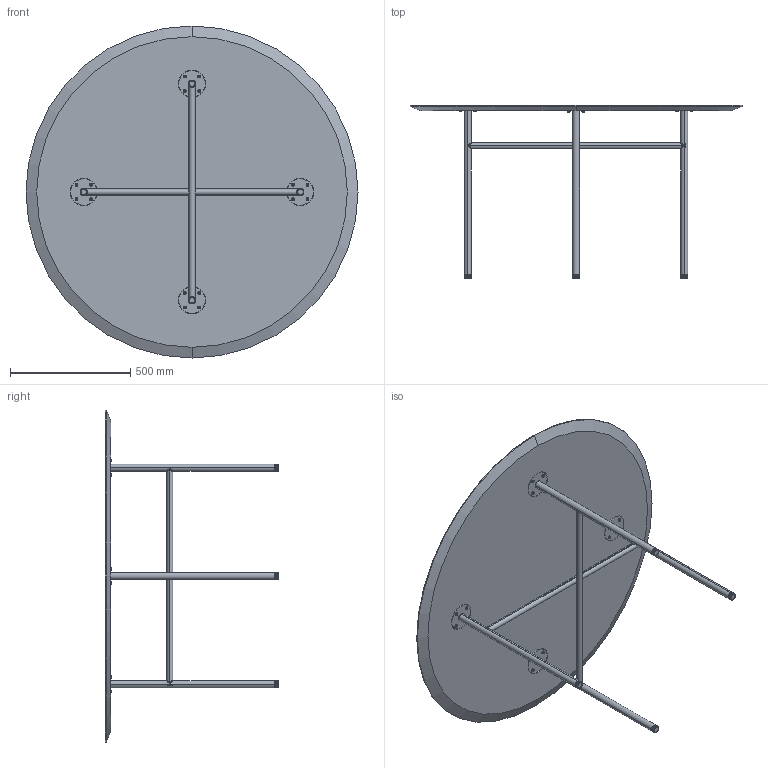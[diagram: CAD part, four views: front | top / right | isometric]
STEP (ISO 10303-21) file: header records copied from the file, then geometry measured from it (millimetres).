
FILE_DESCRIPTION (( 'STEP AP214' ), '1' );
FILE_NAME ('Snaregade_Ø138.STEP', '2024-11-12T14:16:01', ( '' ), ( '' ), 'SwSTEP 2.0', 'SolidWorks 2022', '' );
FILE_SCHEMA (( 'AUTOMOTIVE_DESIGN' ));
Length unit declared in the file: millimetre
Products named in the file (7): ISO 7380-M6x16; DM61013 Inserts; Ø138; Feets; Round_Leg_2_New; Round_Leg_New; Snaregade_Ø138
Assembly tree (43 placements, depth 2):
  Snaregade_Ø138
    DM61013 Inserts  x16
    Round_Leg_2_New
    Round_Leg_New
    ISO 7380-M6x16  x16
    Ø138
    Feets  x8
Bounding box: 1380 x 720.1 x 1380 mm (x, y, z)
Volume: 31989852 mm3; surface area: 3906811.6 mm2
Topology: 44 solids, 46 shells, 512 faces, 1010 edges, 656 vertices
Faces by surface type: cylinder 306, plane 154, torus 50, cone 2
Entity records: 8547 total; most frequent: CARTESIAN_POINT 2836, DIRECTION 1260, ORIENTED_EDGE 956, AXIS2_PLACEMENT_3D 552, EDGE_CURVE 478, VERTEX_POINT 316, EDGE_LOOP 312, CIRCLE 282
